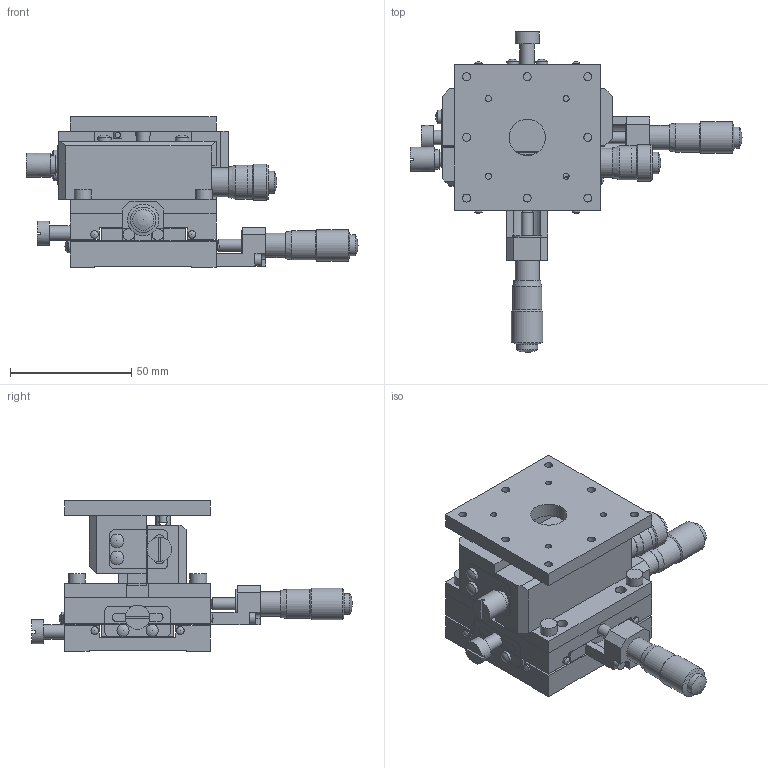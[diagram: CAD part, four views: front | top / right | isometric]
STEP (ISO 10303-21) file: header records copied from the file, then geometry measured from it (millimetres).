
FILE_DESCRIPTION( ( 'STEP AP203' ), '1' );
FILE_NAME( 'C:/3D-Trans/3D_B72-60A+090227.step', '2009-02-27T07:16:03', ( ' ' ), ( ' ' ), 'XStep 1.0', ' ', ' ' );
FILE_SCHEMA( ( 'CONFIG_CONTROL_DESIGN' ) );
Length unit declared in the file: millimetre
Products named in the file (9): 1; 2; 3; 4; 5; 6; 7; 8; 9
Bounding box: 136.8 x 132.15 x 62 mm (x, y, z)
Volume: 181416.6 mm3; surface area: 79665.4 mm2
Topology: 9 solids, 9 shells, 472 faces, 1263 edges, 828 vertices
Faces by surface type: plane 270, cylinder 161, sphere 22, cone 18, bspline 1
Full cylindrical faces by diameter (mm): 2 x4, 2.2 x2, 2.5 x8, 3 x7, 3.2 x8, 3.3 x22, 3.5 x2, 4 x1, 4.5 x8, 4.7 x4, 5 x14, 5.6 x4, 6 x4, 6.35 x1, 6.5 x1, 7 x4, 8 x7, 8.6 x2, 9 x2, 9.5 x1, 10 x8, 10.5 x2, 12 x6, 13 x4, 13.6 x1, 14 x1, 15 x3
Entity records: 13503 total; most frequent: CARTESIAN_POINT 2429, DIRECTION 2240, ORIENTED_EDGE 1904, EDGE_CURVE 952, AXIS2_PLACEMENT_3D 814, EDGE_LOOP 767, VERTEX_POINT 707, LINE 612
